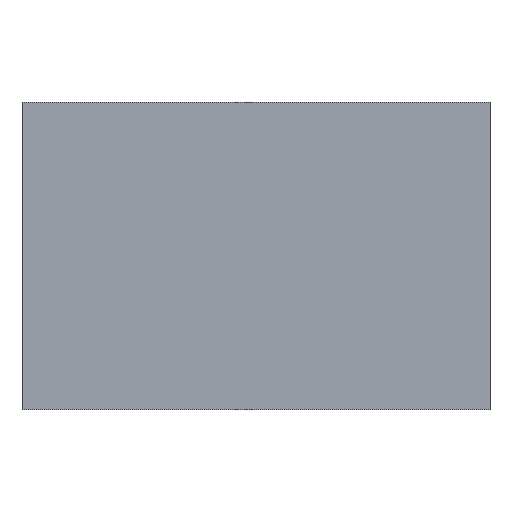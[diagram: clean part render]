
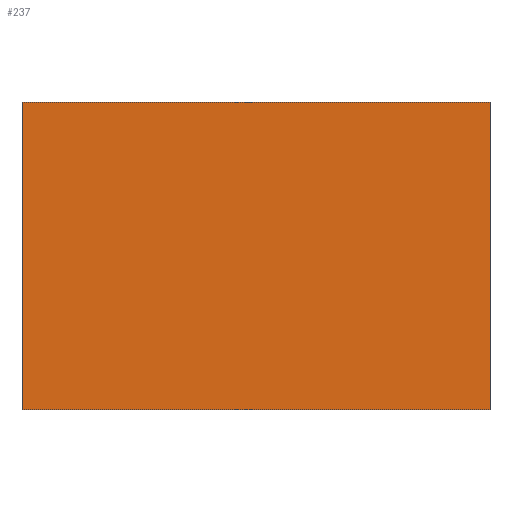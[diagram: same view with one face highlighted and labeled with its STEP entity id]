
A CAD part, front view. The second image highlights one B-rep face of the part: STEP entity #237.
In plain terms, the highlighted planar face has unit normal (0, -1, 0).
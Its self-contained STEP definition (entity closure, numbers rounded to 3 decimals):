
#21 = EDGE_CURVE('',#22,#24,#26,.T.);
#22 = VERTEX_POINT('',#23);
#23 = CARTESIAN_POINT('',(-22.865,-30.94,-9.515));
#24 = VERTEX_POINT('',#25);
#25 = CARTESIAN_POINT('',(-22.865,-30.94,-14.015));
#26 = SURFACE_CURVE('',#27,(#31,#43),.PCURVE_S1.);
#27 = LINE('',#28,#29);
#28 = CARTESIAN_POINT('',(-22.865,-30.94,-9.515));
#29 = VECTOR('',#30,1.);
#30 = DIRECTION('',(0.,0.,-1.));
#31 = PCURVE('',#32,#37);
#32 = PLANE('',#33);
#33 = AXIS2_PLACEMENT_3D('',#34,#35,#36);
#34 = CARTESIAN_POINT('',(-22.865,-30.94,-9.515));
#35 = DIRECTION('',(-1.,0.,0.));
#36 = DIRECTION('',(0.,0.,-1.));
#37 = DEFINITIONAL_REPRESENTATION('',(#38),#42);
#38 = LINE('',#39,#40);
#39 = CARTESIAN_POINT('',(0.,0.));
#40 = VECTOR('',#41,1.);
#41 = DIRECTION('',(1.,0.));
#42 = ( GEOMETRIC_REPRESENTATION_CONTEXT(2) 
PARAMETRIC_REPRESENTATION_CONTEXT() REPRESENTATION_CONTEXT('2D SPACE',''
  ) );
#43 = PCURVE('',#44,#49);
#44 = PLANE('',#45);
#45 = AXIS2_PLACEMENT_3D('',#46,#47,#48);
#46 = CARTESIAN_POINT('',(-22.865,-30.94,-9.515));
#47 = DIRECTION('',(0.,1.,0.));
#48 = DIRECTION('',(0.,0.,-1.));
#49 = DEFINITIONAL_REPRESENTATION('',(#50),#54);
#50 = LINE('',#51,#52);
#51 = CARTESIAN_POINT('',(0.,0.));
#52 = VECTOR('',#53,1.);
#53 = DIRECTION('',(1.,0.));
#54 = ( GEOMETRIC_REPRESENTATION_CONTEXT(2) 
PARAMETRIC_REPRESENTATION_CONTEXT() REPRESENTATION_CONTEXT('2D SPACE',''
  ) );
#72 = PLANE('',#73);
#73 = AXIS2_PLACEMENT_3D('',#74,#75,#76);
#74 = CARTESIAN_POINT('',(-22.865,-30.94,-9.515));
#75 = DIRECTION('',(0.,0.,-1.));
#76 = DIRECTION('',(-1.,0.,0.));
#126 = PLANE('',#127);
#127 = AXIS2_PLACEMENT_3D('',#128,#129,#130);
#128 = CARTESIAN_POINT('',(-22.865,-30.94,-14.015));
#129 = DIRECTION('',(0.,0.,-1.));
#130 = DIRECTION('',(-1.,0.,0.));
#141 = EDGE_CURVE('',#142,#144,#146,.T.);
#142 = VERTEX_POINT('',#143);
#143 = CARTESIAN_POINT('',(-29.715,-30.94,-9.515));
#144 = VERTEX_POINT('',#145);
#145 = CARTESIAN_POINT('',(-29.715,-30.94,-14.015));
#146 = SURFACE_CURVE('',#147,(#151,#163),.PCURVE_S1.);
#147 = LINE('',#148,#149);
#148 = CARTESIAN_POINT('',(-29.715,-30.94,-9.515));
#149 = VECTOR('',#150,1.);
#150 = DIRECTION('',(0.,0.,-1.));
#151 = PCURVE('',#152,#157);
#152 = PLANE('',#153);
#153 = AXIS2_PLACEMENT_3D('',#154,#155,#156);
#154 = CARTESIAN_POINT('',(-29.715,-30.94,-9.515));
#155 = DIRECTION('',(-1.,0.,0.));
#156 = DIRECTION('',(0.,0.,-1.));
#157 = DEFINITIONAL_REPRESENTATION('',(#158),#162);
#158 = LINE('',#159,#160);
#159 = CARTESIAN_POINT('',(0.,0.));
#160 = VECTOR('',#161,1.);
#161 = DIRECTION('',(1.,0.));
#162 = ( GEOMETRIC_REPRESENTATION_CONTEXT(2) 
PARAMETRIC_REPRESENTATION_CONTEXT() REPRESENTATION_CONTEXT('2D SPACE',''
  ) );
#163 = PCURVE('',#44,#164);
#164 = DEFINITIONAL_REPRESENTATION('',(#165),#169);
#165 = LINE('',#166,#167);
#166 = CARTESIAN_POINT('',(0.,6.85));
#167 = VECTOR('',#168,1.);
#168 = DIRECTION('',(1.,0.));
#169 = ( GEOMETRIC_REPRESENTATION_CONTEXT(2) 
PARAMETRIC_REPRESENTATION_CONTEXT() REPRESENTATION_CONTEXT('2D SPACE',''
  ) );
#237 = ADVANCED_FACE('',(#238),#44,.F.);
#238 = FACE_BOUND('',#239,.F.);
#239 = EDGE_LOOP('',(#240,#261,#262,#283));
#240 = ORIENTED_EDGE('',*,*,#241,.F.);
#241 = EDGE_CURVE('',#22,#142,#242,.T.);
#242 = SURFACE_CURVE('',#243,(#247,#254),.PCURVE_S1.);
#243 = LINE('',#244,#245);
#244 = CARTESIAN_POINT('',(-22.865,-30.94,-9.515));
#245 = VECTOR('',#246,1.);
#246 = DIRECTION('',(-1.,0.,0.));
#247 = PCURVE('',#44,#248);
#248 = DEFINITIONAL_REPRESENTATION('',(#249),#253);
#249 = LINE('',#250,#251);
#250 = CARTESIAN_POINT('',(0.,0.));
#251 = VECTOR('',#252,1.);
#252 = DIRECTION('',(0.,1.));
#253 = ( GEOMETRIC_REPRESENTATION_CONTEXT(2) 
PARAMETRIC_REPRESENTATION_CONTEXT() REPRESENTATION_CONTEXT('2D SPACE',''
  ) );
#254 = PCURVE('',#72,#255);
#255 = DEFINITIONAL_REPRESENTATION('',(#256),#260);
#256 = LINE('',#257,#258);
#257 = CARTESIAN_POINT('',(0.,0.));
#258 = VECTOR('',#259,1.);
#259 = DIRECTION('',(1.,0.));
#260 = ( GEOMETRIC_REPRESENTATION_CONTEXT(2) 
PARAMETRIC_REPRESENTATION_CONTEXT() REPRESENTATION_CONTEXT('2D SPACE',''
  ) );
#261 = ORIENTED_EDGE('',*,*,#21,.T.);
#262 = ORIENTED_EDGE('',*,*,#263,.T.);
#263 = EDGE_CURVE('',#24,#144,#264,.T.);
#264 = SURFACE_CURVE('',#265,(#269,#276),.PCURVE_S1.);
#265 = LINE('',#266,#267);
#266 = CARTESIAN_POINT('',(-22.865,-30.94,-14.015));
#267 = VECTOR('',#268,1.);
#268 = DIRECTION('',(-1.,0.,0.));
#269 = PCURVE('',#44,#270);
#270 = DEFINITIONAL_REPRESENTATION('',(#271),#275);
#271 = LINE('',#272,#273);
#272 = CARTESIAN_POINT('',(4.5,0.));
#273 = VECTOR('',#274,1.);
#274 = DIRECTION('',(0.,1.));
#275 = ( GEOMETRIC_REPRESENTATION_CONTEXT(2) 
PARAMETRIC_REPRESENTATION_CONTEXT() REPRESENTATION_CONTEXT('2D SPACE',''
  ) );
#276 = PCURVE('',#126,#277);
#277 = DEFINITIONAL_REPRESENTATION('',(#278),#282);
#278 = LINE('',#279,#280);
#279 = CARTESIAN_POINT('',(0.,0.));
#280 = VECTOR('',#281,1.);
#281 = DIRECTION('',(1.,0.));
#282 = ( GEOMETRIC_REPRESENTATION_CONTEXT(2) 
PARAMETRIC_REPRESENTATION_CONTEXT() REPRESENTATION_CONTEXT('2D SPACE',''
  ) );
#283 = ORIENTED_EDGE('',*,*,#141,.F.);
